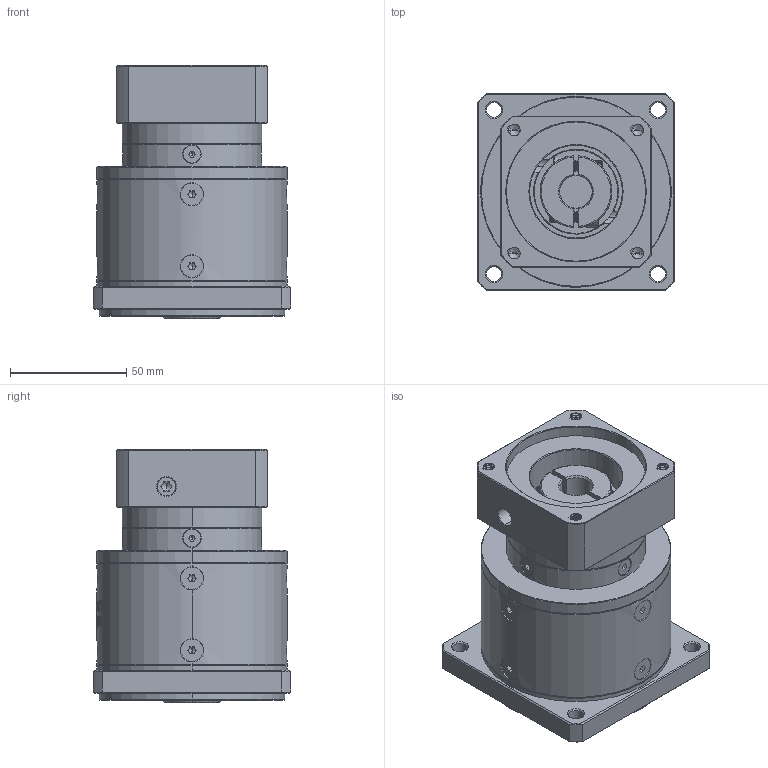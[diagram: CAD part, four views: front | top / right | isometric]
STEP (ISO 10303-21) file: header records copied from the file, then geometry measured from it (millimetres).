
FILE_DESCRIPTION (( 'STEP AP214' ), '1' );
FILE_NAME ('ZF080-K15-L2-P2-14-60-75-M6.step', '2023-08-19T06:59:19', ( '' ), ( '' ), 'SwSTEP 2.0', 'SolidWorks 2016', '' );
FILE_SCHEMA (( 'AUTOMOTIVE_DESIGN' ));
Length unit declared in the file: millimetre
Products named in the file (1): ZF080-K15-L2-P2-14-60-75-M6
Bounding box: 85 x 85 x 109 mm (x, y, z)
Volume: 463939.9 mm3; surface area: 69664.7 mm2
Topology: 18 solids, 18 shells, 2279 faces, 6009 edges, 3831 vertices
Faces by surface type: plane 1123, cylinder 405, bspline 390, cone 321, torus 40
Entity records: 120441 total; most frequent: CARTESIAN_POINT 43936, ORIENTED_EDGE 11946, DIRECTION 8973, EDGE_CURVE 5973, VERTEX_POINT 3831, VECTOR 3177, LINE 3177, AXIS2_PLACEMENT_3D 2898
